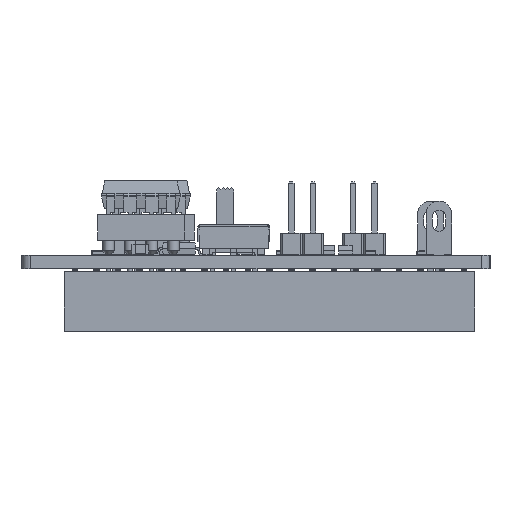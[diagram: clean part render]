
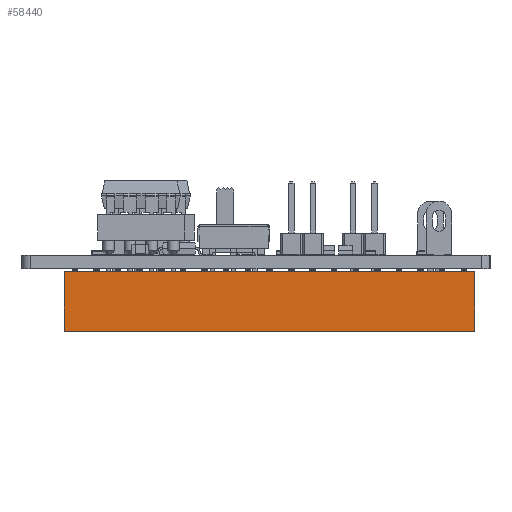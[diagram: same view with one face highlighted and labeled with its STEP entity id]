
A CAD part, left-side view. The second image highlights one B-rep face of the part: STEP entity #58440.
In plain terms, the highlighted planar face has unit normal (-1, 0, 0) as drawn and (1, 0, 0) by its records, which use the part's own axes.
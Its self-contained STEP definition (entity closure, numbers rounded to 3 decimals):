
#58440 = ADVANCED_FACE('',(#58441),#58455,.F.);
#58441 = FACE_BOUND('',#58442,.F.);
#58442 = EDGE_LOOP('',(#58443,#58478,#58506,#58534));
#58443 = ORIENTED_EDGE('',*,*,#58444,.T.);
#58444 = EDGE_CURVE('',#58445,#58447,#58449,.T.);
#58445 = VERTEX_POINT('',#58446);
#58446 = CARTESIAN_POINT('',(2.54,-24.13,0.3));
#58447 = VERTEX_POINT('',#58448);
#58448 = CARTESIAN_POINT('',(2.54,-24.13,7.3));
#58449 = SURFACE_CURVE('',#58450,(#58454,#58466),.PCURVE_S1.);
#58450 = LINE('',#58451,#58452);
#58451 = CARTESIAN_POINT('',(2.54,-24.13,0.3));
#58452 = VECTOR('',#58453,1.);
#58453 = DIRECTION('',(0.,0.,1.));
#58454 = PCURVE('',#58455,#58460);
#58455 = PLANE('',#58456);
#58456 = AXIS2_PLACEMENT_3D('',#58457,#58458,#58459);
#58457 = CARTESIAN_POINT('',(2.54,-24.13,0.3));
#58458 = DIRECTION('',(-1.,0.,0.));
#58459 = DIRECTION('',(0.,1.,0.));
#58460 = DEFINITIONAL_REPRESENTATION('',(#58461),#58465);
#58461 = LINE('',#58462,#58463);
#58462 = CARTESIAN_POINT('',(0.,0.));
#58463 = VECTOR('',#58464,1.);
#58464 = DIRECTION('',(0.,-1.));
#58465 = ( GEOMETRIC_REPRESENTATION_CONTEXT(2) 
PARAMETRIC_REPRESENTATION_CONTEXT() REPRESENTATION_CONTEXT('2D SPACE',''
  ) );
#58466 = PCURVE('',#58467,#58472);
#58467 = PLANE('',#58468);
#58468 = AXIS2_PLACEMENT_3D('',#58469,#58470,#58471);
#58469 = CARTESIAN_POINT('',(-2.54,-24.13,0.3));
#58470 = DIRECTION('',(0.,1.,0.));
#58471 = DIRECTION('',(1.,0.,0.));
#58472 = DEFINITIONAL_REPRESENTATION('',(#58473),#58477);
#58473 = LINE('',#58474,#58475);
#58474 = CARTESIAN_POINT('',(5.08,0.));
#58475 = VECTOR('',#58476,1.);
#58476 = DIRECTION('',(0.,-1.));
#58477 = ( GEOMETRIC_REPRESENTATION_CONTEXT(2) 
PARAMETRIC_REPRESENTATION_CONTEXT() REPRESENTATION_CONTEXT('2D SPACE',''
  ) );
#58478 = ORIENTED_EDGE('',*,*,#58479,.T.);
#58479 = EDGE_CURVE('',#58447,#58480,#58482,.T.);
#58480 = VERTEX_POINT('',#58481);
#58481 = CARTESIAN_POINT('',(2.54,24.13,7.3));
#58482 = SURFACE_CURVE('',#58483,(#58487,#58494),.PCURVE_S1.);
#58483 = LINE('',#58484,#58485);
#58484 = CARTESIAN_POINT('',(2.54,-24.13,7.3));
#58485 = VECTOR('',#58486,1.);
#58486 = DIRECTION('',(0.,1.,0.));
#58487 = PCURVE('',#58455,#58488);
#58488 = DEFINITIONAL_REPRESENTATION('',(#58489),#58493);
#58489 = LINE('',#58490,#58491);
#58490 = CARTESIAN_POINT('',(0.,-7.));
#58491 = VECTOR('',#58492,1.);
#58492 = DIRECTION('',(1.,0.));
#58493 = ( GEOMETRIC_REPRESENTATION_CONTEXT(2) 
PARAMETRIC_REPRESENTATION_CONTEXT() REPRESENTATION_CONTEXT('2D SPACE',''
  ) );
#58494 = PCURVE('',#58495,#58500);
#58495 = PLANE('',#58496);
#58496 = AXIS2_PLACEMENT_3D('',#58497,#58498,#58499);
#58497 = CARTESIAN_POINT('',(2.54,-24.13,7.3));
#58498 = DIRECTION('',(-0.,0.,-1.));
#58499 = DIRECTION('',(0.,-1.,-0.));
#58500 = DEFINITIONAL_REPRESENTATION('',(#58501),#58505);
#58501 = LINE('',#58502,#58503);
#58502 = CARTESIAN_POINT('',(0.,0.));
#58503 = VECTOR('',#58504,1.);
#58504 = DIRECTION('',(-1.,0.));
#58505 = ( GEOMETRIC_REPRESENTATION_CONTEXT(2) 
PARAMETRIC_REPRESENTATION_CONTEXT() REPRESENTATION_CONTEXT('2D SPACE',''
  ) );
#58506 = ORIENTED_EDGE('',*,*,#58507,.F.);
#58507 = EDGE_CURVE('',#58508,#58480,#58510,.T.);
#58508 = VERTEX_POINT('',#58509);
#58509 = CARTESIAN_POINT('',(2.54,24.13,0.3));
#58510 = SURFACE_CURVE('',#58511,(#58515,#58522),.PCURVE_S1.);
#58511 = LINE('',#58512,#58513);
#58512 = CARTESIAN_POINT('',(2.54,24.13,0.3));
#58513 = VECTOR('',#58514,1.);
#58514 = DIRECTION('',(0.,0.,1.));
#58515 = PCURVE('',#58455,#58516);
#58516 = DEFINITIONAL_REPRESENTATION('',(#58517),#58521);
#58517 = LINE('',#58518,#58519);
#58518 = CARTESIAN_POINT('',(48.26,0.));
#58519 = VECTOR('',#58520,1.);
#58520 = DIRECTION('',(0.,-1.));
#58521 = ( GEOMETRIC_REPRESENTATION_CONTEXT(2) 
PARAMETRIC_REPRESENTATION_CONTEXT() REPRESENTATION_CONTEXT('2D SPACE',''
  ) );
#58522 = PCURVE('',#58523,#58528);
#58523 = PLANE('',#58524);
#58524 = AXIS2_PLACEMENT_3D('',#58525,#58526,#58527);
#58525 = CARTESIAN_POINT('',(2.54,24.13,0.3));
#58526 = DIRECTION('',(0.,-1.,0.));
#58527 = DIRECTION('',(-1.,0.,0.));
#58528 = DEFINITIONAL_REPRESENTATION('',(#58529),#58533);
#58529 = LINE('',#58530,#58531);
#58530 = CARTESIAN_POINT('',(0.,0.));
#58531 = VECTOR('',#58532,1.);
#58532 = DIRECTION('',(0.,-1.));
#58533 = ( GEOMETRIC_REPRESENTATION_CONTEXT(2) 
PARAMETRIC_REPRESENTATION_CONTEXT() REPRESENTATION_CONTEXT('2D SPACE',''
  ) );
#58534 = ORIENTED_EDGE('',*,*,#58535,.F.);
#58535 = EDGE_CURVE('',#58445,#58508,#58536,.T.);
#58536 = SURFACE_CURVE('',#58537,(#58541,#58548),.PCURVE_S1.);
#58537 = LINE('',#58538,#58539);
#58538 = CARTESIAN_POINT('',(2.54,-24.13,0.3));
#58539 = VECTOR('',#58540,1.);
#58540 = DIRECTION('',(0.,1.,0.));
#58541 = PCURVE('',#58455,#58542);
#58542 = DEFINITIONAL_REPRESENTATION('',(#58543),#58547);
#58543 = LINE('',#58544,#58545);
#58544 = CARTESIAN_POINT('',(0.,0.));
#58545 = VECTOR('',#58546,1.);
#58546 = DIRECTION('',(1.,0.));
#58547 = ( GEOMETRIC_REPRESENTATION_CONTEXT(2) 
PARAMETRIC_REPRESENTATION_CONTEXT() REPRESENTATION_CONTEXT('2D SPACE',''
  ) );
#58548 = PCURVE('',#58549,#58554);
#58549 = PLANE('',#58550);
#58550 = AXIS2_PLACEMENT_3D('',#58551,#58552,#58553);
#58551 = CARTESIAN_POINT('',(2.54,-24.13,0.3));
#58552 = DIRECTION('',(-0.,0.,-1.));
#58553 = DIRECTION('',(0.,-1.,-0.));
#58554 = DEFINITIONAL_REPRESENTATION('',(#58555),#58559);
#58555 = LINE('',#58556,#58557);
#58556 = CARTESIAN_POINT('',(0.,0.));
#58557 = VECTOR('',#58558,1.);
#58558 = DIRECTION('',(-1.,0.));
#58559 = ( GEOMETRIC_REPRESENTATION_CONTEXT(2) 
PARAMETRIC_REPRESENTATION_CONTEXT() REPRESENTATION_CONTEXT('2D SPACE',''
  ) );
